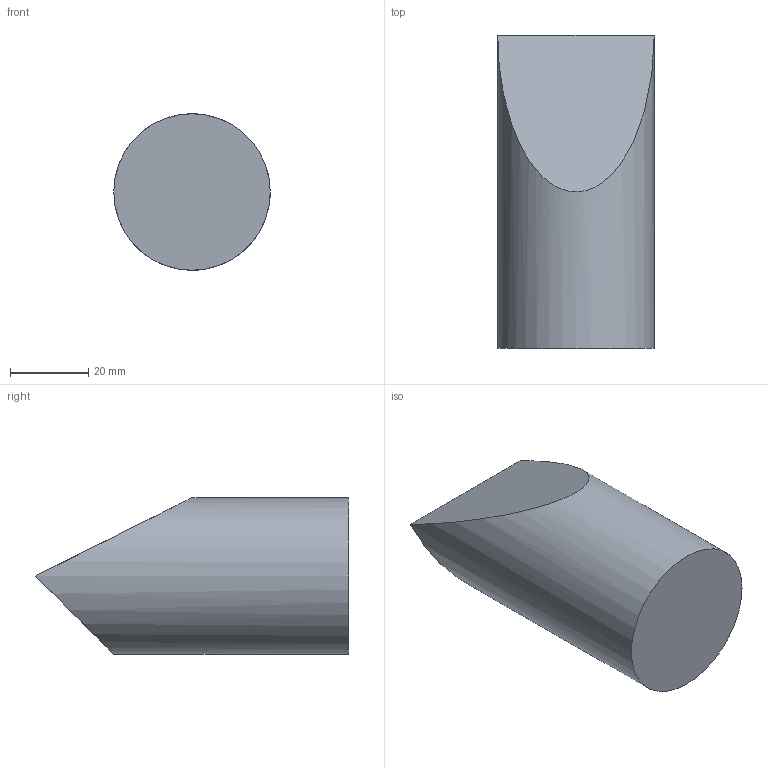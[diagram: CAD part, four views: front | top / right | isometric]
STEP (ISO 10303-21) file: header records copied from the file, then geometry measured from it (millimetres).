
FILE_DESCRIPTION(/* description */ ('','CAx-IF Rec.Pracs.---Representation and Presentation of Product Manufacturing Information (PMI)---4.0---2014-10-13'),/* implementation_level */ '2;1');
FILE_NAME(/* name */ '4.stp',/* time_stamp */ '2026-06-27T16:24:50+01:00',/* author */ ('hunte'),/* organization */ (''),/* preprocessor_version */ 'ST-DEVELOPER v20',/* originating_system */ 'Autodesk Inventor 2024',/* authorisation */ '');
FILE_SCHEMA (('AP242_MANAGED_MODEL_BASED_3D_ENGINEERING_MIM_LF { 1 0 10303 442 1 1 4 }'));
Length unit declared in the file: millimetre
Products named in the file (1): 4
Bounding box: 40 x 80 x 40 mm (x, y, z)
Volume: 84531 mm3; surface area: 11203.3 mm2
Topology: 1 solids, 1 shells, 4 faces, 5 edges, 3 vertices
Faces by surface type: plane 3, cylinder 1
Full cylindrical faces by diameter (mm): 40 x1
Entity records: 215 total; most frequent: DIRECTION 44, CARTESIAN_POINT 30, AXIS2_PLACEMENT_3D 21, ORIENTED_EDGE 10, MAPPED_ITEM 5, REPRESENTATION_MAP 5, DRAUGHTING_MODEL 5, EDGE_CURVE 5
